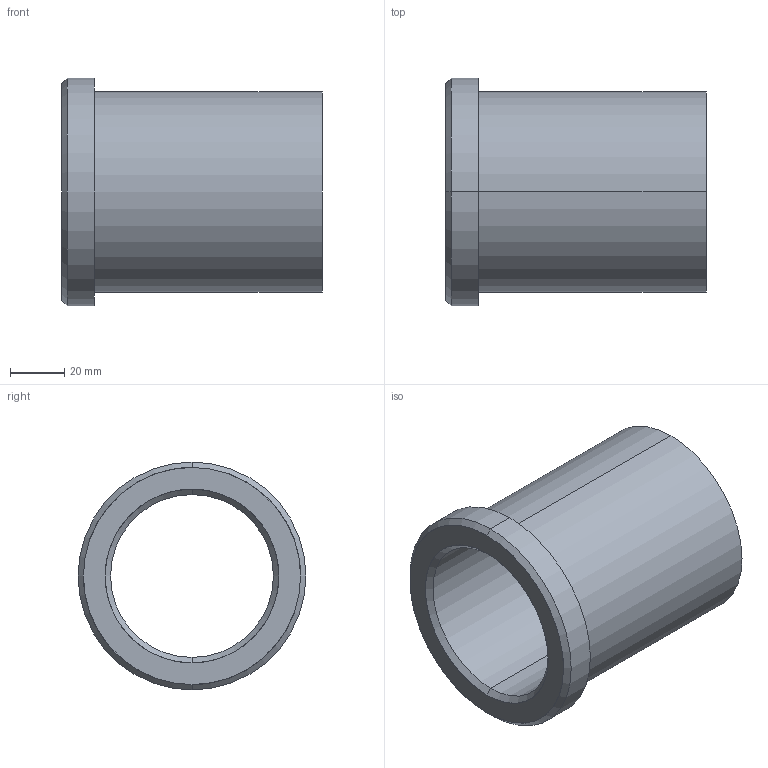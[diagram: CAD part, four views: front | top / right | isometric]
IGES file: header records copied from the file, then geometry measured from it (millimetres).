
Start section: START RECORD GO HERE.
Global section: file name: 353-60X96.igs; native system: DASSAULT SYSTEMES CATIA V5 R20 - www.3ds.com; preprocessor: CATIA Version 5 Release 20 ; author: Utente; organization: NB04-ASUS; date: 20210514.200020; units: millimetre
Bounding box: 96 x 84 x 84 mm (x, y, z)
Surface area: 45450.4 mm2 (no closed solid volume)
Topology: 0 solids, 0 shells, 15 faces, 96 edges, 96 vertices
Faces by surface type: revolution 12, plane 3
